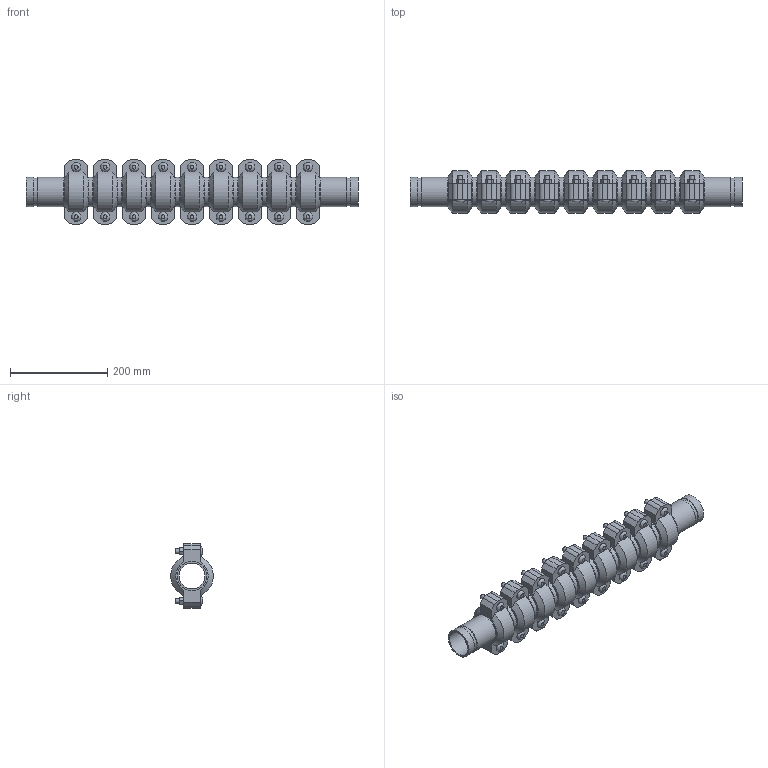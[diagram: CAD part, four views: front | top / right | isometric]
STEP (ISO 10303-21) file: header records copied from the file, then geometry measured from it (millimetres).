
FILE_DESCRIPTION(/* description */ ('VIC SS EXPANSION JOINT 9 COUPLINGS NEUTRAL STYLE 155P (OGS) (POTABLE WATER) ','CAx-IF Rec.Pracs.---Representation and Presentation of Product Manufacturing Information (PMI)---4.0---2014-10-13'),/* implementation_level */ '2;1');
FILE_NAME(/* name */ 'C:\Users\kkamble\AppData\Roaming\Autodesk\ApplicationPlugins\Victaulic.Temp\A561\Victaulic_SS_Expansion Joint_Neutral_9 Couplings_Style 155P (OGS)-Potable Water_9 Coup_Neut_2 (50).stp',/* time_stamp */ '2021-07-16T16:39:47+05:00',/* author */ ('kkamble'),/* organization */ ('Victaulic'),/* preprocessor_version */ 'ST-DEVELOPER v17.2',/* originating_system */ 'Autodesk Inventor 2019',/* authorisation */ '');
FILE_SCHEMA (('AP242_MANAGED_MODEL_BASED_3D_ENGINEERING_MIM_LF { 1 0 10303 442 1 1 4 }'));
Length unit declared in the file: inch
Products named in the file (4): 155P-02.0; Nipple-02.0; Nipple-02.0_1; 075-02.0
Assembly tree (19 placements, depth 2):
  155P-02.0
    Nipple-02.0  x2
    Nipple-02.0_1  x8
    075-02.0  x9
Bounding box: 681.99 x 87.12 x 132.59 mm (x, y, z)
Volume: 2218953 mm3; surface area: 616576.6 mm2
Topology: 19 solids, 37 shells, 633 faces, 1497 edges, 1050 vertices
Faces by surface type: plane 384, cylinder 195, cone 36, bspline 18
Full cylindrical faces by diameter (mm): 9.525 x36, 11.43 x18, 52.502 x10, 53.975 x9, 57.15 x20, 60.325 x48
Entity records: 2865 total; most frequent: CARTESIAN_POINT 503, DIRECTION 481, ORIENTED_EDGE 386, AXIS2_PLACEMENT_3D 194, EDGE_CURVE 193, VERTEX_POINT 138, EDGE_LOOP 107, LINE 93
